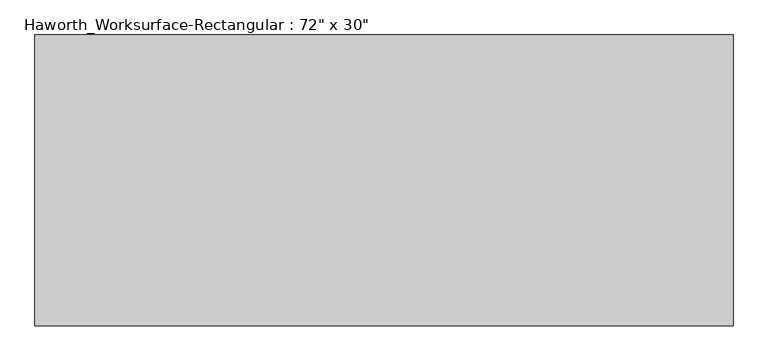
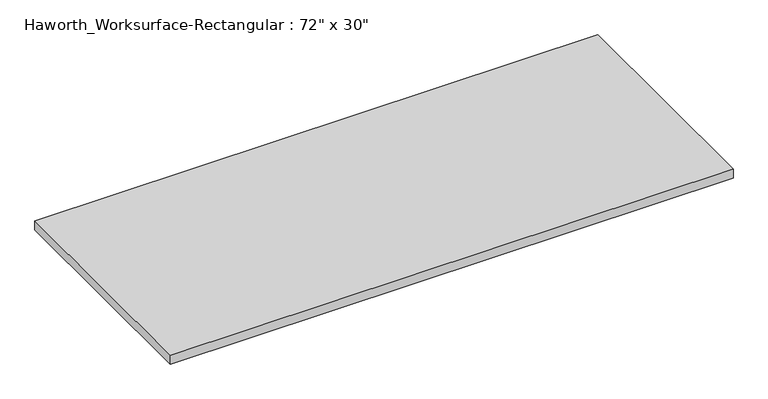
"""IFC4 building model written with IfcOpenShell, lengths in millimetres: furniture geometry."""

from ifc_helpers import new_model, si_unit, frame, origin, place, context, project, spatial, polyline, outline, extrude, source, transform, mapped, element, save


def furniture_74d3c8ed(model_context):
    return source(origin(), model_context, "Body", "SweptSolid", [
        extrude(outline(polyline([(914.4, -381.0), (-914.4, -381.0), (-914.4, 381.0), (914.4, 381.0), (914.4, -381.0)])), frame((0.0, 0.0, 706.4375), z_axis=(0.0, 0.0, 1.0), x_axis=(1.0, 0.0, 0.0)), (0.0, 0.0, 1.0), 30.1625),
    ])


if __name__ == "__main__":
    model = new_model("IFC4")
    model_context = context("Model", 3, world=origin())
    ifc_project = project(units=[si_unit("LENGTHUNIT", "METRE", prefix="MILLI")], contexts=[model_context])
    site = spatial("IfcSite", under=ifc_project)
    building = spatial("IfcBuilding", under=site)
    placement = place(None, origin())
    furniture_shape = furniture_74d3c8ed(model_context)
    element("IfcFurniture", 1, ObjectType="Haworth_Worksurface-Rectangular : 72\" x 30\"", at=placement, inside=building, context=model_context, shape_type="MappedRepresentation", body=[
        mapped(furniture_shape, transform((0.0, 0.0, 0.0), x_axis=(1.0, 0.0, 0.0), y_axis=(0.0, 1.0, 0.0), z_axis=(0.0, 0.0, 1.0))),
    ])
    save(model, "model.ifc")
